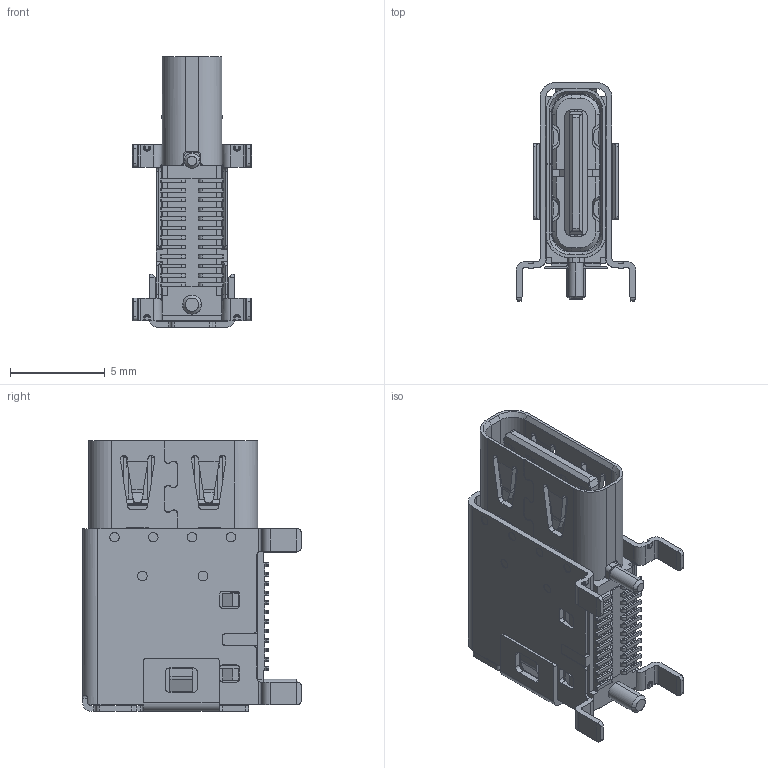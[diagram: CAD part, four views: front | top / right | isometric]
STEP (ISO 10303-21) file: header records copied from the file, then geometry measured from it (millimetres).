
FILE_DESCRIPTION (( 'STEP AP214' ), '1' );
FILE_NAME ('USB4200-03-A_revA.STEP', '2023-03-03T09:13:10', ( '' ), ( '' ), 'SwSTEP 2.0', 'SolidWorks 2021', '' );
FILE_SCHEMA (( 'AUTOMOTIVE_DESIGN' ));
Length unit declared in the file: millimetre
Products named in the file (5): INSHELL; ASM0005_ASM_1_ASM; USB-TYPE-C-24PIN-CECHA-CHANGG_1; USB4200-03-A_revA; OUTSHELL-1_1_1_1
Assembly tree (4 placements, depth 3):
  USB4200-03-A_revA
    ASM0005_ASM_1_ASM
      USB-TYPE-C-24PIN-CECHA-CHANGG_1
      OUTSHELL-1_1_1_1
    INSHELL
Bounding box: 6.3 x 11.53 x 14.3 mm (x, y, z)
Volume: 362.1 mm3; surface area: 1383.9 mm2
Topology: 5 solids, 36 shells, 2455 faces, 6651 edges, 4292 vertices
Faces by surface type: plane 1809, cylinder 583, bspline 35, cone 28
Entity records: 82505 total; most frequent: CARTESIAN_POINT 17871, ORIENTED_EDGE 13302, DIRECTION 11451, EDGE_CURVE 6651, LINE 5157, VECTOR 5157, VERTEX_POINT 4292, AXIS2_PLACEMENT_3D 3147
